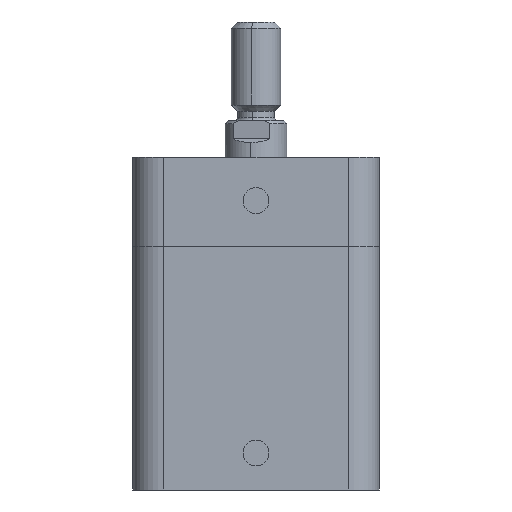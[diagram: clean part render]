
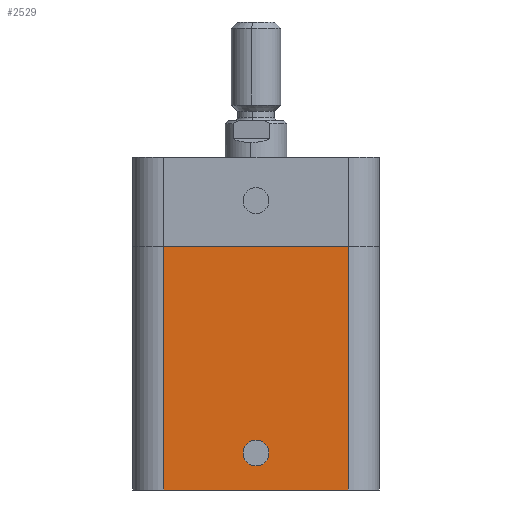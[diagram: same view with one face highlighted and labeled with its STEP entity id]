
A CAD part, left-side view. The second image highlights one B-rep face of the part: STEP entity #2529.
In plain terms, the highlighted planar face has unit normal (-1, 0, 0).
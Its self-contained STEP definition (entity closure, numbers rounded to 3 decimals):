
#56 = DIRECTION ( 'NONE',  ( 0., 0., 1. ) ) ;
#107 = CARTESIAN_POINT ( 'NONE',  ( -20., -15., 24.5 ) ) ;
#730 = DIRECTION ( 'NONE',  ( -1., 0., 0. ) ) ;
#761 = VERTEX_POINT ( 'NONE', #12972 ) ;
#793 = CIRCLE ( 'NONE', #10529, 2.1 ) ;
#958 = LINE ( 'NONE', #7639, #5829 ) ;
#1153 = VECTOR ( 'NONE', #10120, 1000. ) ;
#1192 = ORIENTED_EDGE ( 'NONE', *, *, #5298, .F. ) ;
#1391 = CARTESIAN_POINT ( 'NONE',  ( -20., 15., 24.5 ) ) ;
#1721 = VECTOR ( 'NONE', #4914, 1000. ) ;
#1767 = PLANE ( 'NONE',  #10622 ) ;
#1770 = VERTEX_POINT ( 'NONE', #4538 ) ;
#2529 = ADVANCED_FACE ( 'NONE', ( #4135, #5855 ), #1767, .F. ) ;
#2806 = CIRCLE ( 'NONE', #4498, 2.1 ) ;
#3558 = EDGE_LOOP ( 'NONE', ( #4236, #11389, #12551, #6223 ) ) ;
#3752 = CARTESIAN_POINT ( 'NONE',  ( -20., 0., -9. ) ) ;
#3931 = DIRECTION ( 'NONE',  ( -1., 0., 0. ) ) ;
#4135 = FACE_BOUND ( 'NONE', #5160, .T. ) ;
#4236 = ORIENTED_EDGE ( 'NONE', *, *, #9957, .T. ) ;
#4498 = AXIS2_PLACEMENT_3D ( 'NONE', #6078, #3931, #56 ) ;
#4538 = CARTESIAN_POINT ( 'NONE',  ( -20., 0., -11.1 ) ) ;
#4550 = CARTESIAN_POINT ( 'NONE',  ( -20., 0., -6.9 ) ) ;
#4756 = DIRECTION ( 'NONE',  ( 0., 0., -1. ) ) ;
#4914 = DIRECTION ( 'NONE',  ( 0., -1., 0. ) ) ;
#5160 = EDGE_LOOP ( 'NONE', ( #1192, #5695 ) ) ;
#5239 = LINE ( 'NONE', #11062, #1153 ) ;
#5277 = EDGE_CURVE ( 'NONE', #5420, #7840, #958, .T. ) ;
#5298 = EDGE_CURVE ( 'NONE', #7521, #1770, #793, .T. ) ;
#5400 = DIRECTION ( 'NONE',  ( 0., -1., 0. ) ) ;
#5420 = VERTEX_POINT ( 'NONE', #12219 ) ;
#5695 = ORIENTED_EDGE ( 'NONE', *, *, #10530, .F. ) ;
#5829 = VECTOR ( 'NONE', #9624, 1000. ) ;
#5855 = FACE_OUTER_BOUND ( 'NONE', #3558, .T. ) ;
#6078 = CARTESIAN_POINT ( 'NONE',  ( -20., 0., -9. ) ) ;
#6223 = ORIENTED_EDGE ( 'NONE', *, *, #7855, .T. ) ;
#7054 = LINE ( 'NONE', #7910, #1721 ) ;
#7514 = VECTOR ( 'NONE', #5400, 1000. ) ;
#7521 = VERTEX_POINT ( 'NONE', #4550 ) ;
#7639 = CARTESIAN_POINT ( 'NONE',  ( -20., -15., 9.5 ) ) ;
#7820 = CARTESIAN_POINT ( 'NONE',  ( -20., 15., 24.5 ) ) ;
#7840 = VERTEX_POINT ( 'NONE', #107 ) ;
#7855 = EDGE_CURVE ( 'NONE', #9768, #761, #5239, .T. ) ;
#7910 = CARTESIAN_POINT ( 'NONE',  ( -20., 20., -15. ) ) ;
#9624 = DIRECTION ( 'NONE',  ( 0., 0., 1. ) ) ;
#9743 = CARTESIAN_POINT ( 'NONE',  ( -20., 20., 9.5 ) ) ;
#9768 = VERTEX_POINT ( 'NONE', #7820 ) ;
#9957 = EDGE_CURVE ( 'NONE', #761, #5420, #7054, .T. ) ;
#10120 = DIRECTION ( 'NONE',  ( 0., 0., -1. ) ) ;
#10179 = EDGE_CURVE ( 'NONE', #9768, #7840, #11870, .T. ) ;
#10529 = AXIS2_PLACEMENT_3D ( 'NONE', #3752, #730, #12739 ) ;
#10530 = EDGE_CURVE ( 'NONE', #1770, #7521, #2806, .T. ) ;
#10622 = AXIS2_PLACEMENT_3D ( 'NONE', #9743, #10720, #4756 ) ;
#10720 = DIRECTION ( 'NONE',  ( 1., 0., 0. ) ) ;
#11062 = CARTESIAN_POINT ( 'NONE',  ( -20., 15., 9.5 ) ) ;
#11389 = ORIENTED_EDGE ( 'NONE', *, *, #5277, .T. ) ;
#11870 = LINE ( 'NONE', #1391, #7514 ) ;
#12219 = CARTESIAN_POINT ( 'NONE',  ( -20., -15., -15. ) ) ;
#12551 = ORIENTED_EDGE ( 'NONE', *, *, #10179, .F. ) ;
#12739 = DIRECTION ( 'NONE',  ( 0., 0., 1. ) ) ;
#12972 = CARTESIAN_POINT ( 'NONE',  ( -20., 15., -15. ) ) ;
